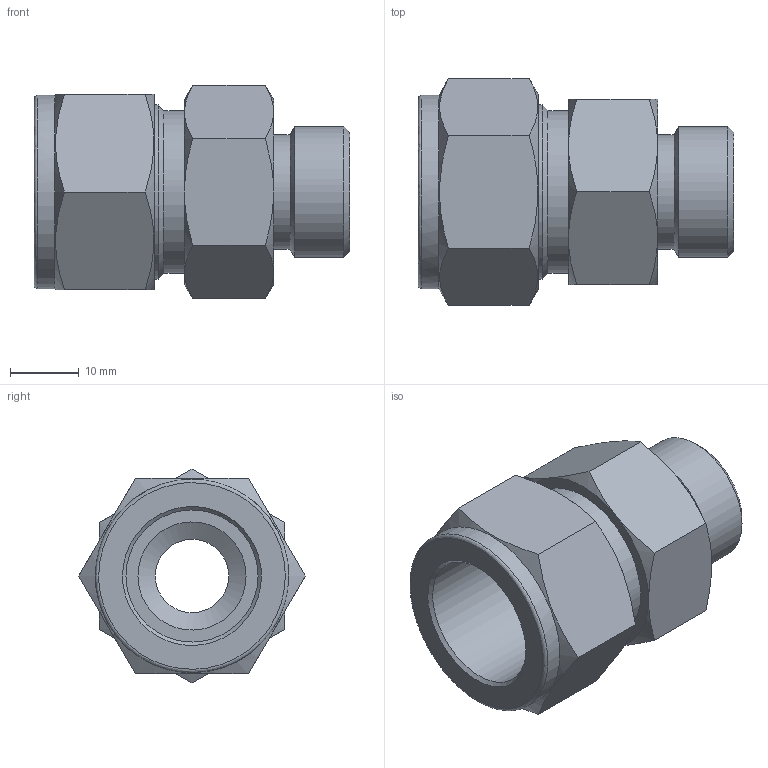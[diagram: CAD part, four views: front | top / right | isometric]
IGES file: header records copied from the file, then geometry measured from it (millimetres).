
Global section: file name: SSMC-12-8U; native system: Autodesk Inventor 2016; preprocessor: unknown; author: DESIGNPC2; date: 20160123.164402; units: millimetre
Bounding box: 45.99 x 33 x 31.18 mm (x, y, z)
Volume: 15854.2 mm3; surface area: 7564.2 mm2
Topology: 1 solids, 1 shells, 47 faces, 120 edges, 79 vertices
Faces by surface type: bspline 47
